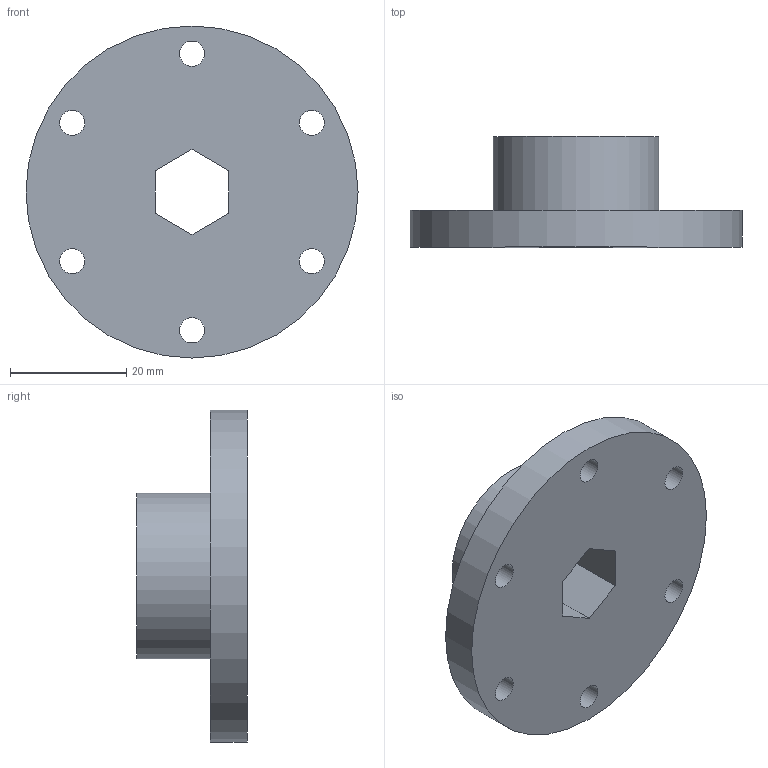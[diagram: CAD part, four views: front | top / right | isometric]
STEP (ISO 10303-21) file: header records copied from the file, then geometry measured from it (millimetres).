
FILE_DESCRIPTION(/* description */ (''),/* implementation_level */ '2;1');
FILE_NAME(/* name */ 'Half Inch Hex Hub .step',/* time_stamp */ '2022-12-29T16:10:04-08:00',/* author */ (''),/* organization */ (''),/* preprocessor_version */ 'ST-DEVELOPER v19.2',/* originating_system */ 'Autodesk Translation Framework v11.17.0.187',/* authorisation */ '');
FILE_SCHEMA (('AUTOMOTIVE_DESIGN { 1 0 10303 214 3 1 1 }'));
Length unit declared in the file: inch
Products named in the file (1): Half Inch Hex Hub
Bounding box: 57.15 x 19.05 x 57.15 mm (x, y, z)
Volume: 21189.6 mm3; surface area: 8310 mm2
Topology: 1 solids, 1 shells, 17 faces, 42 edges, 28 vertices
Faces by surface type: plane 9, cylinder 8
Full cylindrical faces by diameter (mm): 4.318 x6, 28.55 x1, 57.15 x1
Entity records: 582 total; most frequent: DIRECTION 94, CARTESIAN_POINT 88, ORIENTED_EDGE 84, EDGE_CURVE 42, AXIS2_PLACEMENT_3D 34, EDGE_LOOP 32, VERTEX_POINT 28, LINE 26
